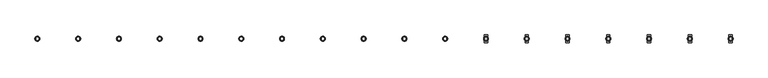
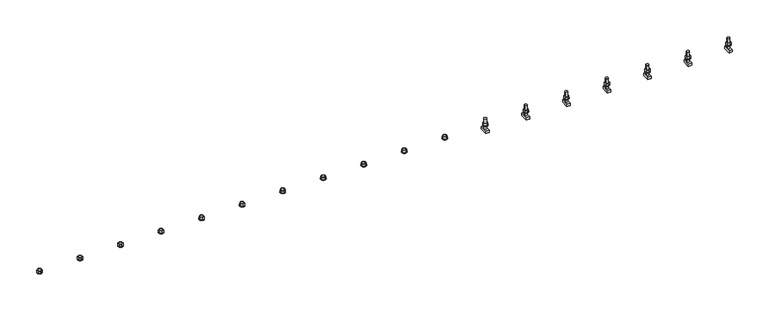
"""IFC4 building model written with IfcOpenShell, lengths in millimetres: fastener geometry, JTA-W JORDAHL® AnchorChannels : JTA-W L=6000 mm."""

from ifc_helpers import new_model, si_unit, point, frame, frame_2d, origin, place, context, project, spatial, polyline, circle_curve, trimmed, segment, composite_curve, outline, extrude, source, transform, mapped, element, save
from ifc_brep_helpers import plane_surface, cylinder_surface, advanced_brep


def fastener_a86c2ace(model_context):
    return source(origin(), model_context, "Body", "SolidModel", [
        extrude(outline(polyline([(5617.1052632, 17.3205081), (5632.1052632, 8.660254), (5632.1052632, -8.660254), (5617.1052632, -17.3205081), (5602.1052632, -8.660254), (5602.1052632, 8.660254), (5617.1052632, 17.3205081)]), holes=[composite_curve([segment(trimmed(circle_curve(frame_2d((5617.1052632, 0.0)), 10.0), [point((5607.1052632, 0.0))], [point((5627.1052632, 0.0))], True, "CARTESIAN"), True, "CONTINUOUS"), segment(trimmed(circle_curve(frame_2d((5617.1052632, 0.0)), 10.0), [point((5627.1052632, 0.0))], [point((5607.1052632, 0.0))], True, "CARTESIAN"), True, "CONTINUOUS")], self_intersect=False)]), frame((0.0, 0.0, 18.0), z_axis=(0.0, 0.0, 1.0), x_axis=(1.0, 0.0, 0.0)), (0.0, 0.0, 1.0), 18.0),
        extrude(outline(composite_curve([segment(trimmed(circle_curve(frame_2d((5617.1052632, 0.0)), 18.5), [point((5598.6052632, 0.0))], [point((5635.6052632, 0.0))], False, "CARTESIAN"), True, "CONTINUOUS"), segment(trimmed(circle_curve(frame_2d((5617.1052632, 0.0)), 18.5), [point((5635.6052632, 0.0))], [point((5598.6052632, 0.0))], False, "CARTESIAN"), True, "CONTINUOUS")], self_intersect=False), holes=[composite_curve([segment(trimmed(circle_curve(frame_2d((5617.1052632, 0.0)), 10.5), [point((5606.6052632, 0.0))], [point((5627.6052632, 0.0))], True, "CARTESIAN"), True, "CONTINUOUS"), segment(trimmed(circle_curve(frame_2d((5617.1052632, 0.0)), 10.5), [point((5627.6052632, 0.0))], [point((5606.6052632, 0.0))], True, "CARTESIAN"), True, "CONTINUOUS")], self_intersect=False)]), frame((0.0, 0.0, 15.0), z_axis=(0.0, 0.0, 1.0), x_axis=(1.0, 0.0, 0.0)), (0.0, 0.0, 1.0), 3.0),
        extrude(outline(polyline([(5309.2105263, 17.3205081), (5324.2105263, 8.660254), (5324.2105263, -8.660254), (5309.2105263, -17.3205081), (5294.2105263, -8.660254), (5294.2105263, 8.660254), (5309.2105263, 17.3205081)]), holes=[composite_curve([segment(trimmed(circle_curve(frame_2d((5309.2105263, 0.0)), 10.0), [point((5299.2105263, 0.0))], [point((5319.2105263, 0.0))], True, "CARTESIAN"), True, "CONTINUOUS"), segment(trimmed(circle_curve(frame_2d((5309.2105263, 0.0)), 10.0), [point((5319.2105263, 0.0))], [point((5299.2105263, 0.0))], True, "CARTESIAN"), True, "CONTINUOUS")], self_intersect=False)]), frame((0.0, 0.0, 18.0), z_axis=(0.0, 0.0, 1.0), x_axis=(1.0, 0.0, 0.0)), (0.0, 0.0, 1.0), 18.0),
        extrude(outline(composite_curve([segment(trimmed(circle_curve(frame_2d((5309.2105263, 0.0)), 18.5), [point((5290.7105263, 0.0))], [point((5327.7105263, 0.0))], False, "CARTESIAN"), True, "CONTINUOUS"), segment(trimmed(circle_curve(frame_2d((5309.2105263, 0.0)), 18.5), [point((5327.7105263, 0.0))], [point((5290.7105263, 0.0))], False, "CARTESIAN"), True, "CONTINUOUS")], self_intersect=False), holes=[composite_curve([segment(trimmed(circle_curve(frame_2d((5309.2105263, 0.0)), 10.5), [point((5298.7105263, 0.0))], [point((5319.7105263, 0.0))], True, "CARTESIAN"), True, "CONTINUOUS"), segment(trimmed(circle_curve(frame_2d((5309.2105263, 0.0)), 10.5), [point((5319.7105263, 0.0))], [point((5298.7105263, 0.0))], True, "CARTESIAN"), True, "CONTINUOUS")], self_intersect=False)]), frame((0.0, 0.0, 15.0), z_axis=(0.0, 0.0, 1.0), x_axis=(1.0, 0.0, 0.0)), (0.0, 0.0, 1.0), 3.0),
        extrude(outline(polyline([(5001.3157895, 17.3205081), (5016.3157895, 8.660254), (5016.3157895, -8.660254), (5001.3157895, -17.3205081), (4986.3157895, -8.660254), (4986.3157895, 8.660254), (5001.3157895, 17.3205081)]), holes=[composite_curve([segment(trimmed(circle_curve(frame_2d((5001.3157895, 0.0)), 10.0), [point((4991.3157895, 0.0))], [point((5011.3157895, 0.0))], True, "CARTESIAN"), True, "CONTINUOUS"), segment(trimmed(circle_curve(frame_2d((5001.3157895, 0.0)), 10.0), [point((5011.3157895, 0.0))], [point((4991.3157895, 0.0))], True, "CARTESIAN"), True, "CONTINUOUS")], self_intersect=False)]), frame((0.0, 0.0, 18.0), z_axis=(0.0, 0.0, 1.0), x_axis=(1.0, 0.0, 0.0)), (0.0, 0.0, 1.0), 18.0),
        extrude(outline(composite_curve([segment(trimmed(circle_curve(frame_2d((5001.3157895, 0.0)), 18.5), [point((4982.8157895, 0.0))], [point((5019.8157895, 0.0))], False, "CARTESIAN"), True, "CONTINUOUS"), segment(trimmed(circle_curve(frame_2d((5001.3157895, 0.0)), 18.5), [point((5019.8157895, 0.0))], [point((4982.8157895, 0.0))], False, "CARTESIAN"), True, "CONTINUOUS")], self_intersect=False), holes=[composite_curve([segment(trimmed(circle_curve(frame_2d((5001.3157895, 0.0)), 10.5), [point((4990.8157895, 0.0))], [point((5011.8157895, 0.0))], True, "CARTESIAN"), True, "CONTINUOUS"), segment(trimmed(circle_curve(frame_2d((5001.3157895, 0.0)), 10.5), [point((5011.8157895, 0.0))], [point((4990.8157895, 0.0))], True, "CARTESIAN"), True, "CONTINUOUS")], self_intersect=False)]), frame((0.0, 0.0, 15.0), z_axis=(0.0, 0.0, 1.0), x_axis=(1.0, 0.0, 0.0)), (0.0, 0.0, 1.0), 3.0),
        extrude(outline(polyline([(4693.4210526, 17.3205081), (4708.4210526, 8.660254), (4708.4210526, -8.660254), (4693.4210526, -17.3205081), (4678.4210526, -8.660254), (4678.4210526, 8.660254), (4693.4210526, 17.3205081)]), holes=[composite_curve([segment(trimmed(circle_curve(frame_2d((4693.4210526, 0.0)), 10.0), [point((4683.4210526, 0.0))], [point((4703.4210526, 0.0))], True, "CARTESIAN"), True, "CONTINUOUS"), segment(trimmed(circle_curve(frame_2d((4693.4210526, 0.0)), 10.0), [point((4703.4210526, 0.0))], [point((4683.4210526, 0.0))], True, "CARTESIAN"), True, "CONTINUOUS")], self_intersect=False)]), frame((0.0, 0.0, 18.0), z_axis=(0.0, 0.0, 1.0), x_axis=(1.0, 0.0, 0.0)), (0.0, 0.0, 1.0), 18.0),
        extrude(outline(composite_curve([segment(trimmed(circle_curve(frame_2d((4693.4210526, 0.0)), 18.5), [point((4674.9210526, 0.0))], [point((4711.9210526, 0.0))], False, "CARTESIAN"), True, "CONTINUOUS"), segment(trimmed(circle_curve(frame_2d((4693.4210526, 0.0)), 18.5), [point((4711.9210526, 0.0))], [point((4674.9210526, 0.0))], False, "CARTESIAN"), True, "CONTINUOUS")], self_intersect=False), holes=[composite_curve([segment(trimmed(circle_curve(frame_2d((4693.4210526, 0.0)), 10.5), [point((4682.9210526, 0.0))], [point((4703.9210526, 0.0))], True, "CARTESIAN"), True, "CONTINUOUS"), segment(trimmed(circle_curve(frame_2d((4693.4210526, 0.0)), 10.5), [point((4703.9210526, 0.0))], [point((4682.9210526, 0.0))], True, "CARTESIAN"), True, "CONTINUOUS")], self_intersect=False)]), frame((0.0, 0.0, 15.0), z_axis=(0.0, 0.0, 1.0), x_axis=(1.0, 0.0, 0.0)), (0.0, 0.0, 1.0), 3.0),
        extrude(outline(polyline([(4385.5263158, 17.3205081), (4400.5263158, 8.660254), (4400.5263158, -8.660254), (4385.5263158, -17.3205081), (4370.5263158, -8.660254), (4370.5263158, 8.660254), (4385.5263158, 17.3205081)]), holes=[composite_curve([segment(trimmed(circle_curve(frame_2d((4385.5263158, 0.0)), 10.0), [point((4375.5263158, 0.0))], [point((4395.5263158, 0.0))], True, "CARTESIAN"), True, "CONTINUOUS"), segment(trimmed(circle_curve(frame_2d((4385.5263158, 0.0)), 10.0), [point((4395.5263158, 0.0))], [point((4375.5263158, 0.0))], True, "CARTESIAN"), True, "CONTINUOUS")], self_intersect=False)]), frame((0.0, 0.0, 18.0), z_axis=(0.0, 0.0, 1.0), x_axis=(1.0, 0.0, 0.0)), (0.0, 0.0, 1.0), 18.0),
        extrude(outline(composite_curve([segment(trimmed(circle_curve(frame_2d((4385.5263158, 0.0)), 18.5), [point((4367.0263158, 0.0))], [point((4404.0263158, 0.0))], False, "CARTESIAN"), True, "CONTINUOUS"), segment(trimmed(circle_curve(frame_2d((4385.5263158, 0.0)), 18.5), [point((4404.0263158, 0.0))], [point((4367.0263158, 0.0))], False, "CARTESIAN"), True, "CONTINUOUS")], self_intersect=False), holes=[composite_curve([segment(trimmed(circle_curve(frame_2d((4385.5263158, 0.0)), 10.5), [point((4375.0263158, 0.0))], [point((4396.0263158, 0.0))], True, "CARTESIAN"), True, "CONTINUOUS"), segment(trimmed(circle_curve(frame_2d((4385.5263158, 0.0)), 10.5), [point((4396.0263158, 0.0))], [point((4375.0263158, 0.0))], True, "CARTESIAN"), True, "CONTINUOUS")], self_intersect=False)]), frame((0.0, 0.0, 15.0), z_axis=(0.0, 0.0, 1.0), x_axis=(1.0, 0.0, 0.0)), (0.0, 0.0, 1.0), 3.0),
        extrude(outline(polyline([(4077.6315789, 17.3205081), (4092.6315789, 8.660254), (4092.6315789, -8.660254), (4077.6315789, -17.3205081), (4062.6315789, -8.660254), (4062.6315789, 8.660254), (4077.6315789, 17.3205081)]), holes=[composite_curve([segment(trimmed(circle_curve(frame_2d((4077.6315789, 0.0)), 10.0), [point((4067.6315789, 0.0))], [point((4087.6315789, 0.0))], True, "CARTESIAN"), True, "CONTINUOUS"), segment(trimmed(circle_curve(frame_2d((4077.6315789, 0.0)), 10.0), [point((4087.6315789, 0.0))], [point((4067.6315789, 0.0))], True, "CARTESIAN"), True, "CONTINUOUS")], self_intersect=False)]), frame((0.0, 0.0, 18.0), z_axis=(0.0, 0.0, 1.0), x_axis=(1.0, 0.0, 0.0)), (0.0, 0.0, 1.0), 18.0),
        extrude(outline(composite_curve([segment(trimmed(circle_curve(frame_2d((4077.6315789, 0.0)), 18.5), [point((4059.1315789, 0.0))], [point((4096.1315789, 0.0))], False, "CARTESIAN"), True, "CONTINUOUS"), segment(trimmed(circle_curve(frame_2d((4077.6315789, 0.0)), 18.5), [point((4096.1315789, 0.0))], [point((4059.1315789, 0.0))], False, "CARTESIAN"), True, "CONTINUOUS")], self_intersect=False), holes=[composite_curve([segment(trimmed(circle_curve(frame_2d((4077.6315789, 0.0)), 10.5), [point((4067.1315789, 0.0))], [point((4088.1315789, 0.0))], True, "CARTESIAN"), True, "CONTINUOUS"), segment(trimmed(circle_curve(frame_2d((4077.6315789, 0.0)), 10.5), [point((4088.1315789, 0.0))], [point((4067.1315789, 0.0))], True, "CARTESIAN"), True, "CONTINUOUS")], self_intersect=False)]), frame((0.0, 0.0, 15.0), z_axis=(0.0, 0.0, 1.0), x_axis=(1.0, 0.0, 0.0)), (0.0, 0.0, 1.0), 3.0),
        extrude(outline(polyline([(3769.7368421, 17.3205081), (3784.7368421, 8.660254), (3784.7368421, -8.660254), (3769.7368421, -17.3205081), (3754.7368421, -8.660254), (3754.7368421, 8.660254), (3769.7368421, 17.3205081)]), holes=[composite_curve([segment(trimmed(circle_curve(frame_2d((3769.7368421, 0.0)), 10.0), [point((3759.7368421, 0.0))], [point((3779.7368421, 0.0))], True, "CARTESIAN"), True, "CONTINUOUS"), segment(trimmed(circle_curve(frame_2d((3769.7368421, 0.0)), 10.0), [point((3779.7368421, 0.0))], [point((3759.7368421, 0.0))], True, "CARTESIAN"), True, "CONTINUOUS")], self_intersect=False)]), frame((0.0, 0.0, 18.0), z_axis=(0.0, 0.0, 1.0), x_axis=(1.0, 0.0, 0.0)), (0.0, 0.0, 1.0), 18.0),
        extrude(outline(composite_curve([segment(trimmed(circle_curve(frame_2d((3769.7368421, 0.0)), 18.5), [point((3751.2368421, 0.0))], [point((3788.2368421, 0.0))], False, "CARTESIAN"), True, "CONTINUOUS"), segment(trimmed(circle_curve(frame_2d((3769.7368421, 0.0)), 18.5), [point((3788.2368421, 0.0))], [point((3751.2368421, 0.0))], False, "CARTESIAN"), True, "CONTINUOUS")], self_intersect=False), holes=[composite_curve([segment(trimmed(circle_curve(frame_2d((3769.7368421, 0.0)), 10.5), [point((3759.2368421, 0.0))], [point((3780.2368421, 0.0))], True, "CARTESIAN"), True, "CONTINUOUS"), segment(trimmed(circle_curve(frame_2d((3769.7368421, 0.0)), 10.5), [point((3780.2368421, 0.0))], [point((3759.2368421, 0.0))], True, "CARTESIAN"), True, "CONTINUOUS")], self_intersect=False)]), frame((0.0, 0.0, 15.0), z_axis=(0.0, 0.0, 1.0), x_axis=(1.0, 0.0, 0.0)), (0.0, 0.0, 1.0), 3.0),
        extrude(outline(polyline([(3461.8421053, 17.3205081), (3476.8421053, 8.660254), (3476.8421053, -8.660254), (3461.8421053, -17.3205081), (3446.8421053, -8.660254), (3446.8421053, 8.660254), (3461.8421053, 17.3205081)]), holes=[composite_curve([segment(trimmed(circle_curve(frame_2d((3461.8421053, 0.0)), 10.0), [point((3451.8421053, 0.0))], [point((3471.8421053, 0.0))], True, "CARTESIAN"), True, "CONTINUOUS"), segment(trimmed(circle_curve(frame_2d((3461.8421053, 0.0)), 10.0), [point((3471.8421053, 0.0))], [point((3451.8421053, 0.0))], True, "CARTESIAN"), True, "CONTINUOUS")], self_intersect=False)]), frame((0.0, 0.0, 18.0), z_axis=(0.0, 0.0, 1.0), x_axis=(1.0, 0.0, 0.0)), (0.0, 0.0, 1.0), 18.0),
        extrude(outline(composite_curve([segment(trimmed(circle_curve(frame_2d((3461.8421053, 0.0)), 18.5), [point((3443.3421053, 0.0))], [point((3480.3421053, 0.0))], False, "CARTESIAN"), True, "CONTINUOUS"), segment(trimmed(circle_curve(frame_2d((3461.8421053, 0.0)), 18.5), [point((3480.3421053, 0.0))], [point((3443.3421053, 0.0))], False, "CARTESIAN"), True, "CONTINUOUS")], self_intersect=False), holes=[composite_curve([segment(trimmed(circle_curve(frame_2d((3461.8421053, 0.0)), 10.5), [point((3451.3421053, 0.0))], [point((3472.3421053, 0.0))], True, "CARTESIAN"), True, "CONTINUOUS"), segment(trimmed(circle_curve(frame_2d((3461.8421053, 0.0)), 10.5), [point((3472.3421053, 0.0))], [point((3451.3421053, 0.0))], True, "CARTESIAN"), True, "CONTINUOUS")], self_intersect=False)]), frame((0.0, 0.0, 15.0), z_axis=(0.0, 0.0, 1.0), x_axis=(1.0, 0.0, 0.0)), (0.0, 0.0, 1.0), 3.0),
        extrude(outline(polyline([(3153.9473684, 17.3205081), (3168.9473684, 8.660254), (3168.9473684, -8.660254), (3153.9473684, -17.3205081), (3138.9473684, -8.660254), (3138.9473684, 8.660254), (3153.9473684, 17.3205081)]), holes=[composite_curve([segment(trimmed(circle_curve(frame_2d((3153.9473684, 0.0)), 10.0), [point((3143.9473684, 0.0))], [point((3163.9473684, 0.0))], True, "CARTESIAN"), True, "CONTINUOUS"), segment(trimmed(circle_curve(frame_2d((3153.9473684, 0.0)), 10.0), [point((3163.9473684, 0.0))], [point((3143.9473684, 0.0))], True, "CARTESIAN"), True, "CONTINUOUS")], self_intersect=False)]), frame((0.0, 0.0, 18.0), z_axis=(0.0, 0.0, 1.0), x_axis=(1.0, 0.0, 0.0)), (0.0, 0.0, 1.0), 18.0),
        extrude(outline(composite_curve([segment(trimmed(circle_curve(frame_2d((3153.9473684, 0.0)), 18.5), [point((3135.4473684, 0.0))], [point((3172.4473684, 0.0))], False, "CARTESIAN"), True, "CONTINUOUS"), segment(trimmed(circle_curve(frame_2d((3153.9473684, 0.0)), 18.5), [point((3172.4473684, 0.0))], [point((3135.4473684, 0.0))], False, "CARTESIAN"), True, "CONTINUOUS")], self_intersect=False), holes=[composite_curve([segment(trimmed(circle_curve(frame_2d((3153.9473684, 0.0)), 10.5), [point((3143.4473684, 0.0))], [point((3164.4473684, 0.0))], True, "CARTESIAN"), True, "CONTINUOUS"), segment(trimmed(circle_curve(frame_2d((3153.9473684, 0.0)), 10.5), [point((3164.4473684, 0.0))], [point((3143.4473684, 0.0))], True, "CARTESIAN"), True, "CONTINUOUS")], self_intersect=False)]), frame((0.0, 0.0, 15.0), z_axis=(0.0, 0.0, 1.0), x_axis=(1.0, 0.0, 0.0)), (0.0, 0.0, 1.0), 3.0),
        extrude(outline(polyline([(2846.0526316, 17.3205081), (2861.0526316, 8.660254), (2861.0526316, -8.660254), (2846.0526316, -17.3205081), (2831.0526316, -8.660254), (2831.0526316, 8.660254), (2846.0526316, 17.3205081)]), holes=[composite_curve([segment(trimmed(circle_curve(frame_2d((2846.0526316, 0.0)), 10.0), [point((2836.0526316, 0.0))], [point((2856.0526316, 0.0))], True, "CARTESIAN"), True, "CONTINUOUS"), segment(trimmed(circle_curve(frame_2d((2846.0526316, 0.0)), 10.0), [point((2856.0526316, 0.0))], [point((2836.0526316, 0.0))], True, "CARTESIAN"), True, "CONTINUOUS")], self_intersect=False)]), frame((0.0, 0.0, 18.0), z_axis=(0.0, 0.0, 1.0), x_axis=(1.0, 0.0, 0.0)), (0.0, 0.0, 1.0), 18.0),
        extrude(outline(composite_curve([segment(trimmed(circle_curve(frame_2d((2846.0526316, 0.0)), 18.5), [point((2827.5526316, 0.0))], [point((2864.5526316, 0.0))], False, "CARTESIAN"), True, "CONTINUOUS"), segment(trimmed(circle_curve(frame_2d((2846.0526316, 0.0)), 18.5), [point((2864.5526316, 0.0))], [point((2827.5526316, 0.0))], False, "CARTESIAN"), True, "CONTINUOUS")], self_intersect=False), holes=[composite_curve([segment(trimmed(circle_curve(frame_2d((2846.0526316, 0.0)), 10.5), [point((2835.5526316, 0.0))], [point((2856.5526316, 0.0))], True, "CARTESIAN"), True, "CONTINUOUS"), segment(trimmed(circle_curve(frame_2d((2846.0526316, 0.0)), 10.5), [point((2856.5526316, 0.0))], [point((2835.5526316, 0.0))], True, "CARTESIAN"), True, "CONTINUOUS")], self_intersect=False)]), frame((0.0, 0.0, 15.0), z_axis=(0.0, 0.0, 1.0), x_axis=(1.0, 0.0, 0.0)), (0.0, 0.0, 1.0), 3.0),
        extrude(outline(polyline([(2538.1578947, 17.3205081), (2553.1578947, 8.660254), (2553.1578947, -8.660254), (2538.1578947, -17.3205081), (2523.1578947, -8.660254), (2523.1578947, 8.660254), (2538.1578947, 17.3205081)]), holes=[composite_curve([segment(trimmed(circle_curve(frame_2d((2538.1578947, 0.0)), 10.0), [point((2528.1578947, 0.0))], [point((2548.1578947, 0.0))], True, "CARTESIAN"), True, "CONTINUOUS"), segment(trimmed(circle_curve(frame_2d((2538.1578947, 0.0)), 10.0), [point((2548.1578947, 0.0))], [point((2528.1578947, 0.0))], True, "CARTESIAN"), True, "CONTINUOUS")], self_intersect=False)]), frame((0.0, 0.0, 18.0), z_axis=(0.0, 0.0, 1.0), x_axis=(1.0, 0.0, 0.0)), (0.0, 0.0, 1.0), 18.0),
        extrude(outline(composite_curve([segment(trimmed(circle_curve(frame_2d((2538.1578947, 0.0)), 18.5), [point((2519.6578947, 0.0))], [point((2556.6578947, 0.0))], False, "CARTESIAN"), True, "CONTINUOUS"), segment(trimmed(circle_curve(frame_2d((2538.1578947, 0.0)), 18.5), [point((2556.6578947, 0.0))], [point((2519.6578947, 0.0))], False, "CARTESIAN"), True, "CONTINUOUS")], self_intersect=False), holes=[composite_curve([segment(trimmed(circle_curve(frame_2d((2538.1578947, 0.0)), 10.5), [point((2527.6578947, 0.0))], [point((2548.6578947, 0.0))], True, "CARTESIAN"), True, "CONTINUOUS"), segment(trimmed(circle_curve(frame_2d((2538.1578947, 0.0)), 10.5), [point((2548.6578947, 0.0))], [point((2527.6578947, 0.0))], True, "CARTESIAN"), True, "CONTINUOUS")], self_intersect=False)]), frame((0.0, 0.0, 15.0), z_axis=(0.0, 0.0, 1.0), x_axis=(1.0, 0.0, 0.0)), (0.0, 0.0, 1.0), 3.0),
        extrude(outline(polyline([(2230.2631579, 17.3205081), (2245.2631579, 8.660254), (2245.2631579, -8.660254), (2230.2631579, -17.3205081), (2215.2631579, -8.660254), (2215.2631579, 8.660254), (2230.2631579, 17.3205081)]), holes=[composite_curve([segment(trimmed(circle_curve(frame_2d((2230.2631579, 0.0)), 10.0), [point((2220.2631579, 0.0))], [point((2240.2631579, 0.0))], True, "CARTESIAN"), True, "CONTINUOUS"), segment(trimmed(circle_curve(frame_2d((2230.2631579, 0.0)), 10.0), [point((2240.2631579, 0.0))], [point((2220.2631579, 0.0))], True, "CARTESIAN"), True, "CONTINUOUS")], self_intersect=False)]), frame((0.0, 0.0, 18.0), z_axis=(0.0, 0.0, 1.0), x_axis=(1.0, 0.0, 0.0)), (0.0, 0.0, 1.0), 18.0),
        extrude(outline(composite_curve([segment(trimmed(circle_curve(frame_2d((2230.2631579, 0.0)), 18.5), [point((2211.7631579, 0.0))], [point((2248.7631579, 0.0))], False, "CARTESIAN"), True, "CONTINUOUS"), segment(trimmed(circle_curve(frame_2d((2230.2631579, 0.0)), 18.5), [point((2248.7631579, 0.0))], [point((2211.7631579, 0.0))], False, "CARTESIAN"), True, "CONTINUOUS")], self_intersect=False), holes=[composite_curve([segment(trimmed(circle_curve(frame_2d((2230.2631579, 0.0)), 10.5), [point((2219.7631579, 0.0))], [point((2240.7631579, 0.0))], True, "CARTESIAN"), True, "CONTINUOUS"), segment(trimmed(circle_curve(frame_2d((2230.2631579, 0.0)), 10.5), [point((2240.7631579, 0.0))], [point((2219.7631579, 0.0))], True, "CARTESIAN"), True, "CONTINUOUS")], self_intersect=False)]), frame((0.0, 0.0, 15.0), z_axis=(0.0, 0.0, 1.0), x_axis=(1.0, 0.0, 0.0)), (0.0, 0.0, 1.0), 3.0),
        extrude(outline(polyline([(1922.3684211, 17.3205081), (1937.3684211, 8.660254), (1937.3684211, -8.660254), (1922.3684211, -17.3205081), (1907.3684211, -8.660254), (1907.3684211, 8.660254), (1922.3684211, 17.3205081)]), holes=[composite_curve([segment(trimmed(circle_curve(frame_2d((1922.3684211, 0.0)), 10.0), [point((1912.3684211, 0.0))], [point((1932.3684211, 0.0))], True, "CARTESIAN"), True, "CONTINUOUS"), segment(trimmed(circle_curve(frame_2d((1922.3684211, 0.0)), 10.0), [point((1932.3684211, 0.0))], [point((1912.3684211, 0.0))], True, "CARTESIAN"), True, "CONTINUOUS")], self_intersect=False)]), frame((0.0, 0.0, 18.0), z_axis=(0.0, 0.0, 1.0), x_axis=(1.0, 0.0, 0.0)), (0.0, 0.0, 1.0), 18.0),
        extrude(outline(composite_curve([segment(trimmed(circle_curve(frame_2d((1922.3684211, 0.0)), 18.5), [point((1903.8684211, 0.0))], [point((1940.8684211, 0.0))], False, "CARTESIAN"), True, "CONTINUOUS"), segment(trimmed(circle_curve(frame_2d((1922.3684211, 0.0)), 18.5), [point((1940.8684211, 0.0))], [point((1903.8684211, 0.0))], False, "CARTESIAN"), True, "CONTINUOUS")], self_intersect=False), holes=[composite_curve([segment(trimmed(circle_curve(frame_2d((1922.3684211, 0.0)), 10.5), [point((1911.8684211, 0.0))], [point((1932.8684211, 0.0))], True, "CARTESIAN"), True, "CONTINUOUS"), segment(trimmed(circle_curve(frame_2d((1922.3684211, 0.0)), 10.5), [point((1932.8684211, 0.0))], [point((1911.8684211, 0.0))], True, "CARTESIAN"), True, "CONTINUOUS")], self_intersect=False)]), frame((0.0, 0.0, 15.0), z_axis=(0.0, 0.0, 1.0), x_axis=(1.0, 0.0, 0.0)), (0.0, 0.0, 1.0), 3.0),
        extrude(outline(polyline([(1614.4736842, 17.3205081), (1629.4736842, 8.660254), (1629.4736842, -8.660254), (1614.4736842, -17.3205081), (1599.4736842, -8.660254), (1599.4736842, 8.660254), (1614.4736842, 17.3205081)]), holes=[composite_curve([segment(trimmed(circle_curve(frame_2d((1614.4736842, 0.0)), 10.0), [point((1604.4736842, 0.0))], [point((1624.4736842, 0.0))], True, "CARTESIAN"), True, "CONTINUOUS"), segment(trimmed(circle_curve(frame_2d((1614.4736842, 0.0)), 10.0), [point((1624.4736842, 0.0))], [point((1604.4736842, 0.0))], True, "CARTESIAN"), True, "CONTINUOUS")], self_intersect=False)]), frame((0.0, 0.0, 18.0), z_axis=(0.0, 0.0, 1.0), x_axis=(1.0, 0.0, 0.0)), (0.0, 0.0, 1.0), 18.0),
        extrude(outline(composite_curve([segment(trimmed(circle_curve(frame_2d((1614.4736842, 0.0)), 18.5), [point((1595.9736842, 0.0))], [point((1632.9736842, 0.0))], False, "CARTESIAN"), True, "CONTINUOUS"), segment(trimmed(circle_curve(frame_2d((1614.4736842, 0.0)), 18.5), [point((1632.9736842, 0.0))], [point((1595.9736842, 0.0))], False, "CARTESIAN"), True, "CONTINUOUS")], self_intersect=False), holes=[composite_curve([segment(trimmed(circle_curve(frame_2d((1614.4736842, 0.0)), 10.5), [point((1603.9736842, 0.0))], [point((1624.9736842, 0.0))], True, "CARTESIAN"), True, "CONTINUOUS"), segment(trimmed(circle_curve(frame_2d((1614.4736842, 0.0)), 10.5), [point((1624.9736842, 0.0))], [point((1603.9736842, 0.0))], True, "CARTESIAN"), True, "CONTINUOUS")], self_intersect=False)]), frame((0.0, 0.0, 15.0), z_axis=(0.0, 0.0, 1.0), x_axis=(1.0, 0.0, 0.0)), (0.0, 0.0, 1.0), 3.0),
        extrude(outline(polyline([(1306.5789474, 17.3205081), (1321.5789474, 8.660254), (1321.5789474, -8.660254), (1306.5789474, -17.3205081), (1291.5789474, -8.660254), (1291.5789474, 8.660254), (1306.5789474, 17.3205081)]), holes=[composite_curve([segment(trimmed(circle_curve(frame_2d((1306.5789474, 0.0)), 10.0), [point((1296.5789474, 0.0))], [point((1316.5789474, 0.0))], True, "CARTESIAN"), True, "CONTINUOUS"), segment(trimmed(circle_curve(frame_2d((1306.5789474, 0.0)), 10.0), [point((1316.5789474, 0.0))], [point((1296.5789474, 0.0))], True, "CARTESIAN"), True, "CONTINUOUS")], self_intersect=False)]), frame((0.0, 0.0, 18.0), z_axis=(0.0, 0.0, 1.0), x_axis=(1.0, 0.0, 0.0)), (0.0, 0.0, 1.0), 18.0),
        extrude(outline(composite_curve([segment(trimmed(circle_curve(frame_2d((1306.5789474, 0.0)), 18.5), [point((1288.0789474, 0.0))], [point((1325.0789474, 0.0))], False, "CARTESIAN"), True, "CONTINUOUS"), segment(trimmed(circle_curve(frame_2d((1306.5789474, 0.0)), 18.5), [point((1325.0789474, 0.0))], [point((1288.0789474, 0.0))], False, "CARTESIAN"), True, "CONTINUOUS")], self_intersect=False), holes=[composite_curve([segment(trimmed(circle_curve(frame_2d((1306.5789474, 0.0)), 10.5), [point((1296.0789474, 0.0))], [point((1317.0789474, 0.0))], True, "CARTESIAN"), True, "CONTINUOUS"), segment(trimmed(circle_curve(frame_2d((1306.5789474, 0.0)), 10.5), [point((1317.0789474, 0.0))], [point((1296.0789474, 0.0))], True, "CARTESIAN"), True, "CONTINUOUS")], self_intersect=False)]), frame((0.0, 0.0, 15.0), z_axis=(0.0, 0.0, 1.0), x_axis=(1.0, 0.0, 0.0)), (0.0, 0.0, 1.0), 3.0),
        extrude(outline(polyline([(998.6842105, 17.3205081), (1013.6842105, 8.660254), (1013.6842105, -8.660254), (998.6842105, -17.3205081), (983.6842105, -8.660254), (983.6842105, 8.660254), (998.6842105, 17.3205081)]), holes=[composite_curve([segment(trimmed(circle_curve(frame_2d((998.6842105, 0.0)), 10.0), [point((988.6842105, 0.0))], [point((1008.6842105, 0.0))], True, "CARTESIAN"), True, "CONTINUOUS"), segment(trimmed(circle_curve(frame_2d((998.6842105, 0.0)), 10.0), [point((1008.6842105, 0.0))], [point((988.6842105, 0.0))], True, "CARTESIAN"), True, "CONTINUOUS")], self_intersect=False)]), frame((0.0, 0.0, 18.0), z_axis=(0.0, 0.0, 1.0), x_axis=(1.0, 0.0, 0.0)), (0.0, 0.0, 1.0), 18.0),
        extrude(outline(composite_curve([segment(trimmed(circle_curve(frame_2d((998.6842105, 0.0)), 18.5), [point((980.1842105, 0.0))], [point((1017.1842105, 0.0))], False, "CARTESIAN"), True, "CONTINUOUS"), segment(trimmed(circle_curve(frame_2d((998.6842105, 0.0)), 18.5), [point((1017.1842105, 0.0))], [point((980.1842105, 0.0))], False, "CARTESIAN"), True, "CONTINUOUS")], self_intersect=False), holes=[composite_curve([segment(trimmed(circle_curve(frame_2d((998.6842105, 0.0)), 10.5), [point((988.1842105, 0.0))], [point((1009.1842105, 0.0))], True, "CARTESIAN"), True, "CONTINUOUS"), segment(trimmed(circle_curve(frame_2d((998.6842105, 0.0)), 10.5), [point((1009.1842105, 0.0))], [point((988.1842105, 0.0))], True, "CARTESIAN"), True, "CONTINUOUS")], self_intersect=False)]), frame((0.0, 0.0, 15.0), z_axis=(0.0, 0.0, 1.0), x_axis=(1.0, 0.0, 0.0)), (0.0, 0.0, 1.0), 3.0),
        extrude(outline(polyline([(690.7894737, 17.3205081), (705.7894737, 8.660254), (705.7894737, -8.660254), (690.7894737, -17.3205081), (675.7894737, -8.660254), (675.7894737, 8.660254), (690.7894737, 17.3205081)]), holes=[composite_curve([segment(trimmed(circle_curve(frame_2d((690.7894737, 0.0)), 10.0), [point((680.7894737, 0.0))], [point((700.7894737, 0.0))], True, "CARTESIAN"), True, "CONTINUOUS"), segment(trimmed(circle_curve(frame_2d((690.7894737, 0.0)), 10.0), [point((700.7894737, 0.0))], [point((680.7894737, 0.0))], True, "CARTESIAN"), True, "CONTINUOUS")], self_intersect=False)]), frame((0.0, 0.0, 18.0), z_axis=(0.0, 0.0, 1.0), x_axis=(1.0, 0.0, 0.0)), (0.0, 0.0, 1.0), 18.0),
        extrude(outline(composite_curve([segment(trimmed(circle_curve(frame_2d((690.7894737, 0.0)), 18.5), [point((672.2894737, 0.0))], [point((709.2894737, 0.0))], False, "CARTESIAN"), True, "CONTINUOUS"), segment(trimmed(circle_curve(frame_2d((690.7894737, 0.0)), 18.5), [point((709.2894737, 0.0))], [point((672.2894737, 0.0))], False, "CARTESIAN"), True, "CONTINUOUS")], self_intersect=False), holes=[composite_curve([segment(trimmed(circle_curve(frame_2d((690.7894737, 0.0)), 10.5), [point((680.2894737, 0.0))], [point((701.2894737, 0.0))], True, "CARTESIAN"), True, "CONTINUOUS"), segment(trimmed(circle_curve(frame_2d((690.7894737, 0.0)), 10.5), [point((701.2894737, 0.0))], [point((680.2894737, 0.0))], True, "CARTESIAN"), True, "CONTINUOUS")], self_intersect=False)]), frame((0.0, 0.0, 15.0), z_axis=(0.0, 0.0, 1.0), x_axis=(1.0, 0.0, 0.0)), (0.0, 0.0, 1.0), 3.0),
        extrude(outline(polyline([(382.8947368, 17.3205081), (397.8947368, 8.660254), (397.8947368, -8.660254), (382.8947368, -17.3205081), (367.8947368, -8.660254), (367.8947368, 8.660254), (382.8947368, 17.3205081)]), holes=[composite_curve([segment(trimmed(circle_curve(frame_2d((382.8947368, 0.0)), 10.0), [point((372.8947368, 0.0))], [point((392.8947368, 0.0))], True, "CARTESIAN"), True, "CONTINUOUS"), segment(trimmed(circle_curve(frame_2d((382.8947368, 0.0)), 10.0), [point((392.8947368, 0.0))], [point((372.8947368, 0.0))], True, "CARTESIAN"), True, "CONTINUOUS")], self_intersect=False)]), frame((0.0, 0.0, 18.0), z_axis=(0.0, 0.0, 1.0), x_axis=(1.0, 0.0, 0.0)), (0.0, 0.0, 1.0), 18.0),
        extrude(outline(composite_curve([segment(trimmed(circle_curve(frame_2d((382.8947368, 0.0)), 18.5), [point((364.3947368, 0.0))], [point((401.3947368, 0.0))], False, "CARTESIAN"), True, "CONTINUOUS"), segment(trimmed(circle_curve(frame_2d((382.8947368, 0.0)), 18.5), [point((401.3947368, 0.0))], [point((364.3947368, 0.0))], False, "CARTESIAN"), True, "CONTINUOUS")], self_intersect=False), holes=[composite_curve([segment(trimmed(circle_curve(frame_2d((382.8947368, 0.0)), 10.5), [point((372.3947368, 0.0))], [point((393.3947368, 0.0))], True, "CARTESIAN"), True, "CONTINUOUS"), segment(trimmed(circle_curve(frame_2d((382.8947368, 0.0)), 10.5), [point((393.3947368, 0.0))], [point((372.3947368, 0.0))], True, "CARTESIAN"), True, "CONTINUOUS")], self_intersect=False)]), frame((0.0, 0.0, 15.0), z_axis=(0.0, 0.0, 1.0), x_axis=(1.0, 0.0, 0.0)), (0.0, 0.0, 1.0), 3.0),
        advanced_brep(
        [(5629.6052632, 29.0, -10.0), (5629.6052632, -29.0, -10.0), (5629.6052632, -29.0, -30.0), (5629.6052632, 29.0, -30.0), (5604.6052632, 29.0, -10.0), (5604.6052632, 29.0, -30.0), (5604.6052632, -29.0, -30.0), (5604.6052632, -29.0, -10.0), (5627.1052632, 0.0, -10.0), (5607.1052632, 0.0, -10.0), (5607.1052632, 0.0, 70.0), (5627.1052632, 0.0, 70.0)],
        [
            (0, 1),
            (1, 2),
            (2, 3),
            (3, 0),
            (4, 5),
            (5, 6),
            (6, 7),
            (7, 4),
            (0, 4),
            (7, 1),
            (8, 9, circle_curve(frame((5617.1052632, 0.0, -10.0), z_axis=(0.0, 0.0, -1.0), x_axis=(1.0, 0.0, 0.0)), 10.0)),
            (9, 8, circle_curve(frame((5617.1052632, 0.0, -10.0), z_axis=(0.0, 0.0, -1.0), x_axis=(1.0, 0.0, 0.0)), 10.0)),
            (6, 2),
            (5, 3),
            (10, 11, circle_curve(frame((5617.1052632, 0.0, 70.0), z_axis=(0.0, 0.0, 1.0), x_axis=(1.0, 0.0, 0.0)), 10.0)),
            (11, 10, circle_curve(frame((5617.1052632, 0.0, 70.0), z_axis=(0.0, 0.0, 1.0), x_axis=(1.0, 0.0, 0.0)), 10.0)),
            (10, 9),
            (8, 11),
        ],
        [
            plane_surface(frame((5629.6052632, -29.0, -10.0), z_axis=(1.0, 0.0, 0.0), x_axis=(0.0, -1.0, 0.0))),
            plane_surface(frame((5604.6052632, -29.0, -10.0), z_axis=(-1.0, 0.0, 0.0), x_axis=(0.0, 1.0, 0.0))),
            plane_surface(frame((5629.6052632, 29.0, -10.0), z_axis=(0.0, 0.0, 1.0), x_axis=(-1.0, 0.0, 0.0))),
            plane_surface(frame((5629.6052632, -29.0, -10.0), z_axis=(0.0, -1.0, 0.0), x_axis=(-1.0, 0.0, 0.0))),
            plane_surface(frame((5629.6052632, -29.0, -30.0), z_axis=(0.0, 0.0, -1.0), x_axis=(-1.0, 0.0, 0.0))),
            plane_surface(frame((5629.6052632, 29.0, -30.0), z_axis=(0.0, 1.0, 0.0), x_axis=(-1.0, 0.0, 0.0))),
            plane_surface(frame((5627.1052632, 0.0, 70.0), z_axis=(0.0, 0.0, 1.0), x_axis=(0.0, 1.0, 0.0))),
            cylinder_surface(frame((5617.1052632, 0.0, -10.0), z_axis=(0.0, 0.0, 1.0), x_axis=(1.0, 0.0, 0.0)), 10.0),
        ],
        [
            (0, [[1, 2, 3, 4]]),
            (1, [[5, 6, 7, 8]]),
            (2, [[-1, 9, -8, 10], [11, 12]]),
            (3, [[-2, -10, -7, 13]]),
            (4, [[-3, -13, -6, 14]]),
            (5, [[-4, -14, -5, -9]]),
            (6, [[15, 16]]),
            (7, [[-15, 17, -11, 18]]),
            (7, [[-16, -18, -12, -17]]),
        ],
    ),
        advanced_brep(
        [(5321.7105263, 29.0, -10.0), (5321.7105263, -29.0, -10.0), (5321.7105263, -29.0, -30.0), (5321.7105263, 29.0, -30.0), (5296.7105263, 29.0, -10.0), (5296.7105263, 29.0, -30.0), (5296.7105263, -29.0, -30.0), (5296.7105263, -29.0, -10.0), (5319.2105263, 0.0, -10.0), (5299.2105263, 0.0, -10.0), (5299.2105263, 0.0, 70.0), (5319.2105263, 0.0, 70.0)],
        [
            (0, 1),
            (1, 2),
            (2, 3),
            (3, 0),
            (4, 5),
            (5, 6),
            (6, 7),
            (7, 4),
            (0, 4),
            (7, 1),
            (8, 9, circle_curve(frame((5309.2105263, 0.0, -10.0), z_axis=(0.0, 0.0, -1.0), x_axis=(1.0, 0.0, 0.0)), 10.0)),
            (9, 8, circle_curve(frame((5309.2105263, 0.0, -10.0), z_axis=(0.0, 0.0, -1.0), x_axis=(1.0, 0.0, 0.0)), 10.0)),
            (6, 2),
            (5, 3),
            (10, 11, circle_curve(frame((5309.2105263, 0.0, 70.0), z_axis=(0.0, 0.0, 1.0), x_axis=(1.0, 0.0, 0.0)), 10.0)),
            (11, 10, circle_curve(frame((5309.2105263, 0.0, 70.0), z_axis=(0.0, 0.0, 1.0), x_axis=(1.0, 0.0, 0.0)), 10.0)),
            (10, 9),
            (8, 11),
        ],
        [
            plane_surface(frame((5321.7105263, -29.0, -10.0), z_axis=(1.0, 0.0, 0.0), x_axis=(0.0, -1.0, 0.0))),
            plane_surface(frame((5296.7105263, -29.0, -10.0), z_axis=(-1.0, 0.0, 0.0), x_axis=(0.0, 1.0, 0.0))),
            plane_surface(frame((5321.7105263, 29.0, -10.0), z_axis=(0.0, 0.0, 1.0), x_axis=(-1.0, 0.0, 0.0))),
            plane_surface(frame((5321.7105263, -29.0, -10.0), z_axis=(0.0, -1.0, 0.0), x_axis=(-1.0, 0.0, 0.0))),
            plane_surface(frame((5321.7105263, -29.0, -30.0), z_axis=(0.0, 0.0, -1.0), x_axis=(-1.0, 0.0, 0.0))),
            plane_surface(frame((5321.7105263, 29.0, -30.0), z_axis=(0.0, 1.0, 0.0), x_axis=(-1.0, 0.0, 0.0))),
            plane_surface(frame((5319.2105263, 0.0, 70.0), z_axis=(0.0, 0.0, 1.0), x_axis=(0.0, 1.0, 0.0))),
            cylinder_surface(frame((5309.2105263, 0.0, -10.0), z_axis=(0.0, 0.0, 1.0), x_axis=(1.0, 0.0, 0.0)), 10.0),
        ],
        [
            (0, [[1, 2, 3, 4]]),
            (1, [[5, 6, 7, 8]]),
            (2, [[-1, 9, -8, 10], [11, 12]]),
            (3, [[-2, -10, -7, 13]]),
            (4, [[-3, -13, -6, 14]]),
            (5, [[-4, -14, -5, -9]]),
            (6, [[15, 16]]),
            (7, [[-15, 17, -11, 18]]),
            (7, [[-16, -18, -12, -17]]),
        ],
    ),
        advanced_brep(
        [(5013.8157895, 29.0, -10.0), (5013.8157895, -29.0, -10.0), (5013.8157895, -29.0, -30.0), (5013.8157895, 29.0, -30.0), (4988.8157895, 29.0, -10.0), (4988.8157895, 29.0, -30.0), (4988.8157895, -29.0, -30.0), (4988.8157895, -29.0, -10.0), (5011.3157895, 0.0, -10.0), (4991.3157895, 0.0, -10.0), (4991.3157895, 0.0, 70.0), (5011.3157895, 0.0, 70.0)],
        [
            (0, 1),
            (1, 2),
            (2, 3),
            (3, 0),
            (4, 5),
            (5, 6),
            (6, 7),
            (7, 4),
            (0, 4),
            (7, 1),
            (8, 9, circle_curve(frame((5001.3157895, 0.0, -10.0), z_axis=(0.0, 0.0, -1.0), x_axis=(1.0, 0.0, 0.0)), 10.0)),
            (9, 8, circle_curve(frame((5001.3157895, 0.0, -10.0), z_axis=(0.0, 0.0, -1.0), x_axis=(1.0, 0.0, 0.0)), 10.0)),
            (6, 2),
            (5, 3),
            (10, 11, circle_curve(frame((5001.3157895, 0.0, 70.0), z_axis=(0.0, 0.0, 1.0), x_axis=(1.0, 0.0, 0.0)), 10.0)),
            (11, 10, circle_curve(frame((5001.3157895, 0.0, 70.0), z_axis=(0.0, 0.0, 1.0), x_axis=(1.0, 0.0, 0.0)), 10.0)),
            (10, 9),
            (8, 11),
        ],
        [
            plane_surface(frame((5013.8157895, -29.0, -10.0), z_axis=(1.0, 0.0, 0.0), x_axis=(0.0, -1.0, 0.0))),
            plane_surface(frame((4988.8157895, -29.0, -10.0), z_axis=(-1.0, 0.0, 0.0), x_axis=(0.0, 1.0, 0.0))),
            plane_surface(frame((5013.8157895, 29.0, -10.0), z_axis=(0.0, 0.0, 1.0), x_axis=(-1.0, 0.0, 0.0))),
            plane_surface(frame((5013.8157895, -29.0, -10.0), z_axis=(0.0, -1.0, 0.0), x_axis=(-1.0, 0.0, 0.0))),
            plane_surface(frame((5013.8157895, -29.0, -30.0), z_axis=(0.0, 0.0, -1.0), x_axis=(-1.0, 0.0, 0.0))),
            plane_surface(frame((5013.8157895, 29.0, -30.0), z_axis=(0.0, 1.0, 0.0), x_axis=(-1.0, 0.0, 0.0))),
            plane_surface(frame((5011.3157895, 0.0, 70.0), z_axis=(0.0, 0.0, 1.0), x_axis=(0.0, 1.0, 0.0))),
            cylinder_surface(frame((5001.3157895, 0.0, -10.0), z_axis=(0.0, 0.0, 1.0), x_axis=(1.0, 0.0, 0.0)), 10.0),
        ],
        [
            (0, [[1, 2, 3, 4]]),
            (1, [[5, 6, 7, 8]]),
            (2, [[-1, 9, -8, 10], [11, 12]]),
            (3, [[-2, -10, -7, 13]]),
            (4, [[-3, -13, -6, 14]]),
            (5, [[-4, -14, -5, -9]]),
            (6, [[15, 16]]),
            (7, [[-15, 17, -11, 18]]),
            (7, [[-16, -18, -12, -17]]),
        ],
    ),
        advanced_brep(
        [(4705.9210526, 29.0, -10.0), (4705.9210526, -29.0, -10.0), (4705.9210526, -29.0, -30.0), (4705.9210526, 29.0, -30.0), (4680.9210526, 29.0, -10.0), (4680.9210526, 29.0, -30.0), (4680.9210526, -29.0, -30.0), (4680.9210526, -29.0, -10.0), (4703.4210526, 0.0, -10.0), (4683.4210526, 0.0, -10.0), (4683.4210526, 0.0, 70.0), (4703.4210526, 0.0, 70.0)],
        [
            (0, 1),
            (1, 2),
            (2, 3),
            (3, 0),
            (4, 5),
            (5, 6),
            (6, 7),
            (7, 4),
            (0, 4),
            (7, 1),
            (8, 9, circle_curve(frame((4693.4210526, 0.0, -10.0), z_axis=(0.0, 0.0, -1.0), x_axis=(1.0, 0.0, 0.0)), 10.0)),
            (9, 8, circle_curve(frame((4693.4210526, 0.0, -10.0), z_axis=(0.0, 0.0, -1.0), x_axis=(1.0, 0.0, 0.0)), 10.0)),
            (6, 2),
            (5, 3),
            (10, 11, circle_curve(frame((4693.4210526, 0.0, 70.0), z_axis=(0.0, 0.0, 1.0), x_axis=(1.0, 0.0, 0.0)), 10.0)),
            (11, 10, circle_curve(frame((4693.4210526, 0.0, 70.0), z_axis=(0.0, 0.0, 1.0), x_axis=(1.0, 0.0, 0.0)), 10.0)),
            (10, 9),
            (8, 11),
        ],
        [
            plane_surface(frame((4705.9210526, -29.0, -10.0), z_axis=(1.0, 0.0, 0.0), x_axis=(0.0, -1.0, 0.0))),
            plane_surface(frame((4680.9210526, -29.0, -10.0), z_axis=(-1.0, 0.0, 0.0), x_axis=(0.0, 1.0, 0.0))),
            plane_surface(frame((4705.9210526, 29.0, -10.0), z_axis=(0.0, 0.0, 1.0), x_axis=(-1.0, 0.0, 0.0))),
            plane_surface(frame((4705.9210526, -29.0, -10.0), z_axis=(0.0, -1.0, 0.0), x_axis=(-1.0, 0.0, 0.0))),
            plane_surface(frame((4705.9210526, -29.0, -30.0), z_axis=(0.0, 0.0, -1.0), x_axis=(-1.0, 0.0, 0.0))),
            plane_surface(frame((4705.9210526, 29.0, -30.0), z_axis=(0.0, 1.0, 0.0), x_axis=(-1.0, 0.0, 0.0))),
            plane_surface(frame((4703.4210526, 0.0, 70.0), z_axis=(0.0, 0.0, 1.0), x_axis=(0.0, 1.0, 0.0))),
            cylinder_surface(frame((4693.4210526, 0.0, -10.0), z_axis=(0.0, 0.0, 1.0), x_axis=(1.0, 0.0, 0.0)), 10.0),
        ],
        [
            (0, [[1, 2, 3, 4]]),
            (1, [[5, 6, 7, 8]]),
            (2, [[-1, 9, -8, 10], [11, 12]]),
            (3, [[-2, -10, -7, 13]]),
            (4, [[-3, -13, -6, 14]]),
            (5, [[-4, -14, -5, -9]]),
            (6, [[15, 16]]),
            (7, [[-15, 17, -11, 18]]),
            (7, [[-16, -18, -12, -17]]),
        ],
    ),
        advanced_brep(
        [(4398.0263158, 29.0, -10.0), (4398.0263158, -29.0, -10.0), (4398.0263158, -29.0, -30.0), (4398.0263158, 29.0, -30.0), (4373.0263158, 29.0, -10.0), (4373.0263158, 29.0, -30.0), (4373.0263158, -29.0, -30.0), (4373.0263158, -29.0, -10.0), (4395.5263158, 0.0, -10.0), (4375.5263158, 0.0, -10.0), (4375.5263158, 0.0, 70.0), (4395.5263158, 0.0, 70.0)],
        [
            (0, 1),
            (1, 2),
            (2, 3),
            (3, 0),
            (4, 5),
            (5, 6),
            (6, 7),
            (7, 4),
            (0, 4),
            (7, 1),
            (8, 9, circle_curve(frame((4385.5263158, 0.0, -10.0), z_axis=(0.0, 0.0, -1.0), x_axis=(1.0, 0.0, 0.0)), 10.0)),
            (9, 8, circle_curve(frame((4385.5263158, 0.0, -10.0), z_axis=(0.0, 0.0, -1.0), x_axis=(1.0, 0.0, 0.0)), 10.0)),
            (6, 2),
            (5, 3),
            (10, 11, circle_curve(frame((4385.5263158, 0.0, 70.0), z_axis=(0.0, 0.0, 1.0), x_axis=(1.0, 0.0, 0.0)), 10.0)),
            (11, 10, circle_curve(frame((4385.5263158, 0.0, 70.0), z_axis=(0.0, 0.0, 1.0), x_axis=(1.0, 0.0, 0.0)), 10.0)),
            (10, 9),
            (8, 11),
        ],
        [
            plane_surface(frame((4398.0263158, -29.0, -10.0), z_axis=(1.0, 0.0, 0.0), x_axis=(0.0, -1.0, 0.0))),
            plane_surface(frame((4373.0263158, -29.0, -10.0), z_axis=(-1.0, 0.0, 0.0), x_axis=(0.0, 1.0, 0.0))),
            plane_surface(frame((4398.0263158, 29.0, -10.0), z_axis=(0.0, 0.0, 1.0), x_axis=(-1.0, 0.0, 0.0))),
            plane_surface(frame((4398.0263158, -29.0, -10.0), z_axis=(0.0, -1.0, 0.0), x_axis=(-1.0, 0.0, 0.0))),
            plane_surface(frame((4398.0263158, -29.0, -30.0), z_axis=(0.0, 0.0, -1.0), x_axis=(-1.0, 0.0, 0.0))),
            plane_surface(frame((4398.0263158, 29.0, -30.0), z_axis=(0.0, 1.0, 0.0), x_axis=(-1.0, 0.0, 0.0))),
            plane_surface(frame((4395.5263158, 0.0, 70.0), z_axis=(0.0, 0.0, 1.0), x_axis=(0.0, 1.0, 0.0))),
            cylinder_surface(frame((4385.5263158, 0.0, -10.0), z_axis=(0.0, 0.0, 1.0), x_axis=(1.0, 0.0, 0.0)), 10.0),
        ],
        [
            (0, [[1, 2, 3, 4]]),
            (1, [[5, 6, 7, 8]]),
            (2, [[-1, 9, -8, 10], [11, 12]]),
            (3, [[-2, -10, -7, 13]]),
            (4, [[-3, -13, -6, 14]]),
            (5, [[-4, -14, -5, -9]]),
            (6, [[15, 16]]),
            (7, [[-15, 17, -11, 18]]),
            (7, [[-16, -18, -12, -17]]),
        ],
    ),
        advanced_brep(
        [(4090.1315789, 29.0, -10.0), (4090.1315789, -29.0, -10.0), (4090.1315789, -29.0, -30.0), (4090.1315789, 29.0, -30.0), (4065.1315789, 29.0, -10.0), (4065.1315789, 29.0, -30.0), (4065.1315789, -29.0, -30.0), (4065.1315789, -29.0, -10.0), (4087.6315789, 0.0, -10.0), (4067.6315789, 0.0, -10.0), (4067.6315789, 0.0, 70.0), (4087.6315789, 0.0, 70.0)],
        [
            (0, 1),
            (1, 2),
            (2, 3),
            (3, 0),
            (4, 5),
            (5, 6),
            (6, 7),
            (7, 4),
            (0, 4),
            (7, 1),
            (8, 9, circle_curve(frame((4077.6315789, 0.0, -10.0), z_axis=(0.0, 0.0, -1.0), x_axis=(1.0, 0.0, 0.0)), 10.0)),
            (9, 8, circle_curve(frame((4077.6315789, 0.0, -10.0), z_axis=(0.0, 0.0, -1.0), x_axis=(1.0, 0.0, 0.0)), 10.0)),
            (6, 2),
            (5, 3),
            (10, 11, circle_curve(frame((4077.6315789, 0.0, 70.0), z_axis=(0.0, 0.0, 1.0), x_axis=(1.0, 0.0, 0.0)), 10.0)),
            (11, 10, circle_curve(frame((4077.6315789, 0.0, 70.0), z_axis=(0.0, 0.0, 1.0), x_axis=(1.0, 0.0, 0.0)), 10.0)),
            (10, 9),
            (8, 11),
        ],
        [
            plane_surface(frame((4090.1315789, -29.0, -10.0), z_axis=(1.0, 0.0, 0.0), x_axis=(0.0, -1.0, 0.0))),
            plane_surface(frame((4065.1315789, -29.0, -10.0), z_axis=(-1.0, 0.0, 0.0), x_axis=(0.0, 1.0, 0.0))),
            plane_surface(frame((4090.1315789, 29.0, -10.0), z_axis=(0.0, 0.0, 1.0), x_axis=(-1.0, 0.0, 0.0))),
            plane_surface(frame((4090.1315789, -29.0, -10.0), z_axis=(0.0, -1.0, 0.0), x_axis=(-1.0, 0.0, 0.0))),
            plane_surface(frame((4090.1315789, -29.0, -30.0), z_axis=(0.0, 0.0, -1.0), x_axis=(-1.0, 0.0, 0.0))),
            plane_surface(frame((4090.1315789, 29.0, -30.0), z_axis=(0.0, 1.0, 0.0), x_axis=(-1.0, 0.0, 0.0))),
            plane_surface(frame((4087.6315789, 0.0, 70.0), z_axis=(0.0, 0.0, 1.0), x_axis=(0.0, 1.0, 0.0))),
            cylinder_surface(frame((4077.6315789, 0.0, -10.0), z_axis=(0.0, 0.0, 1.0), x_axis=(1.0, 0.0, 0.0)), 10.0),
        ],
        [
            (0, [[1, 2, 3, 4]]),
            (1, [[5, 6, 7, 8]]),
            (2, [[-1, 9, -8, 10], [11, 12]]),
            (3, [[-2, -10, -7, 13]]),
            (4, [[-3, -13, -6, 14]]),
            (5, [[-4, -14, -5, -9]]),
            (6, [[15, 16]]),
            (7, [[-15, 17, -11, 18]]),
            (7, [[-16, -18, -12, -17]]),
        ],
    ),
        advanced_brep(
        [(3782.2368421, 29.0, -10.0), (3782.2368421, -29.0, -10.0), (3782.2368421, -29.0, -30.0), (3782.2368421, 29.0, -30.0), (3757.2368421, 29.0, -10.0), (3757.2368421, 29.0, -30.0), (3757.2368421, -29.0, -30.0), (3757.2368421, -29.0, -10.0), (3779.7368421, 0.0, -10.0), (3759.7368421, 0.0, -10.0), (3759.7368421, 0.0, 70.0), (3779.7368421, 0.0, 70.0)],
        [
            (0, 1),
            (1, 2),
            (2, 3),
            (3, 0),
            (4, 5),
            (5, 6),
            (6, 7),
            (7, 4),
            (0, 4),
            (7, 1),
            (8, 9, circle_curve(frame((3769.7368421, 0.0, -10.0), z_axis=(0.0, 0.0, -1.0), x_axis=(1.0, 0.0, 0.0)), 10.0)),
            (9, 8, circle_curve(frame((3769.7368421, 0.0, -10.0), z_axis=(0.0, 0.0, -1.0), x_axis=(1.0, 0.0, 0.0)), 10.0)),
            (6, 2),
            (5, 3),
            (10, 11, circle_curve(frame((3769.7368421, 0.0, 70.0), z_axis=(0.0, 0.0, 1.0), x_axis=(1.0, 0.0, 0.0)), 10.0)),
            (11, 10, circle_curve(frame((3769.7368421, 0.0, 70.0), z_axis=(0.0, 0.0, 1.0), x_axis=(1.0, 0.0, 0.0)), 10.0)),
            (10, 9),
            (8, 11),
        ],
        [
            plane_surface(frame((3782.2368421, -29.0, -10.0), z_axis=(1.0, 0.0, 0.0), x_axis=(0.0, -1.0, 0.0))),
            plane_surface(frame((3757.2368421, -29.0, -10.0), z_axis=(-1.0, 0.0, 0.0), x_axis=(0.0, 1.0, 0.0))),
            plane_surface(frame((3782.2368421, 29.0, -10.0), z_axis=(0.0, 0.0, 1.0), x_axis=(-1.0, 0.0, 0.0))),
            plane_surface(frame((3782.2368421, -29.0, -10.0), z_axis=(0.0, -1.0, 0.0), x_axis=(-1.0, 0.0, 0.0))),
            plane_surface(frame((3782.2368421, -29.0, -30.0), z_axis=(0.0, 0.0, -1.0), x_axis=(-1.0, 0.0, 0.0))),
            plane_surface(frame((3782.2368421, 29.0, -30.0), z_axis=(0.0, 1.0, 0.0), x_axis=(-1.0, 0.0, 0.0))),
            plane_surface(frame((3779.7368421, 0.0, 70.0), z_axis=(0.0, 0.0, 1.0), x_axis=(0.0, 1.0, 0.0))),
            cylinder_surface(frame((3769.7368421, 0.0, -10.0), z_axis=(0.0, 0.0, 1.0), x_axis=(1.0, 0.0, 0.0)), 10.0),
        ],
        [
            (0, [[1, 2, 3, 4]]),
            (1, [[5, 6, 7, 8]]),
            (2, [[-1, 9, -8, 10], [11, 12]]),
            (3, [[-2, -10, -7, 13]]),
            (4, [[-3, -13, -6, 14]]),
            (5, [[-4, -14, -5, -9]]),
            (6, [[15, 16]]),
            (7, [[-15, 17, -11, 18]]),
            (7, [[-16, -18, -12, -17]]),
        ],
    ),
    ])


if __name__ == "__main__":
    model = new_model("IFC4")
    model_context = context("Model", 3, world=origin())
    ifc_project = project(units=[si_unit("LENGTHUNIT", "METRE", prefix="MILLI")], contexts=[model_context])
    site = spatial("IfcSite", under=ifc_project)
    building = spatial("IfcBuilding", under=site)
    placement = place(None, origin())
    fastener_shape = fastener_a86c2ace(model_context)
    element("IfcFastener", 1, ObjectType="JTA-W JORDAHL® AnchorChannels : JTA-W L=6000 mm", at=placement, inside=building, context=model_context, shape_type="MappedRepresentation", body=[
        mapped(fastener_shape, transform((0.0, 0.0, 0.0), x_axis=(1.0, 0.0, 0.0), y_axis=(0.0, 1.0, 0.0), z_axis=(0.0, 0.0, 1.0))),
    ])
    save(model, "model.ifc")
